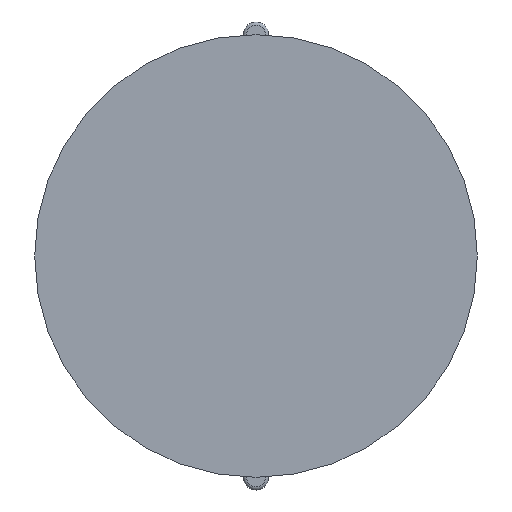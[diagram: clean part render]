
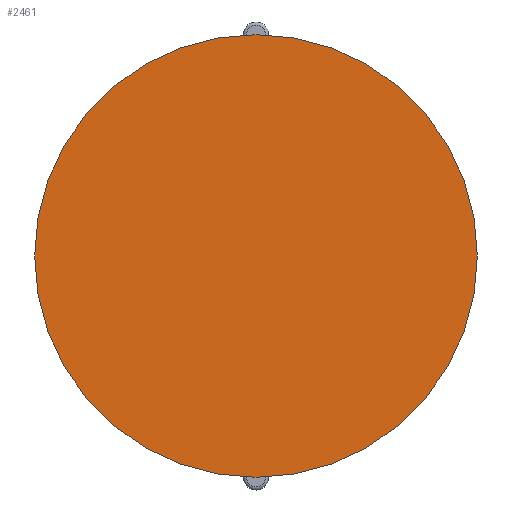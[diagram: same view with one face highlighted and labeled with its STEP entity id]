
A CAD part, front view. The second image highlights one B-rep face of the part: STEP entity #2461.
In plain terms, the highlighted planar face has unit normal (0, -1, 0).
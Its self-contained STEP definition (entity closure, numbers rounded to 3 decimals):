
#805=CARTESIAN_POINT('',(0.,58.06,0.));
#806=DIRECTION('',(0.,1.,0.));
#807=DIRECTION('',(1.,0.,0.));
#808=AXIS2_PLACEMENT_3D('',#805,#806,#807);
#810=CARTESIAN_POINT('',(0.,58.06,0.));
#811=DIRECTION('',(0.,1.,0.));
#812=DIRECTION('',(-1.,0.,0.));
#813=AXIS2_PLACEMENT_3D('',#810,#811,#812);
#1024=CARTESIAN_POINT('',(-35.,58.06,0.));
#1025=CARTESIAN_POINT('',(35.,58.06,0.));
#1026=VERTEX_POINT('',#1024);
#1027=VERTEX_POINT('',#1025);
#2452=CARTESIAN_POINT('',(0.,58.06,0.));
#2453=DIRECTION('',(0.,1.,0.));
#2454=DIRECTION('',(1.,0.,0.));
#2455=AXIS2_PLACEMENT_3D('',#2452,#2453,#2454);
#2456=PLANE('',#2455);
#2457=ORIENTED_EDGE('',*,*,#2438,.T.);
#2458=ORIENTED_EDGE('',*,*,#2420,.T.);
#2459=EDGE_LOOP('',(#2457,#2458));
#2460=FACE_OUTER_BOUND('',#2459,.F.);
#809=CIRCLE('',#808,35.);
#814=CIRCLE('',#813,35.);
#2420=EDGE_CURVE('',#1026,#1027,#814,.T.);
#2438=EDGE_CURVE('',#1027,#1026,#809,.T.);
#2461=ADVANCED_FACE('',(#2460),#2456,.F.);
